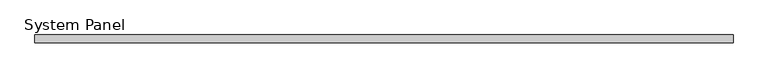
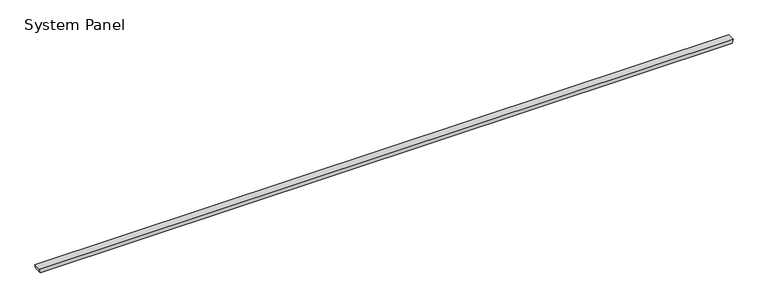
"""IFC4 building model written with IfcOpenShell, lengths in millimetres: plate geometry, System Panel : Equitilt_150mm_Plain_Surfmist."""

from ifc_helpers import new_model, si_unit, frame, origin, place, context, project, spatial, polyline, outline, extrude, source, transform, mapped, element, save


def system_panel_c018d1ff(model_context):
    return source(origin(), model_context, "Body", "SweptSolid", [
        extrude(outline(polyline([(0.0, -6782.6149856), (0.0, 6782.6149856), (79.9704237, 6800.0), (79.9704237, -6800.0), (0.0, -6782.6149856)])), frame((0.0, -150.0, 0.0), z_axis=(0.0, 1.0, 0.0), x_axis=(0.0, 0.0, 1.0)), (0.0, 0.0, 1.0), 150.0),
    ])


if __name__ == "__main__":
    model = new_model("IFC4")
    model_context = context("Model", 3, world=origin())
    ifc_project = project(units=[si_unit("LENGTHUNIT", "METRE", prefix="MILLI")], contexts=[model_context])
    site = spatial("IfcSite", under=ifc_project)
    building = spatial("IfcBuilding", under=site)
    placement = place(None, origin())
    system_panel_shape = system_panel_c018d1ff(model_context)
    element("IfcPlate", 1, ObjectType="System Panel : Equitilt_150mm_Plain_Surfmist", at=placement, inside=building, context=model_context, shape_type="MappedRepresentation", body=[
        mapped(system_panel_shape, transform((0.0, 0.0, 0.0), x_axis=(1.0, 0.0, 0.0), y_axis=(0.0, 1.0, 0.0), z_axis=(0.0, 0.0, 1.0))),
    ])
    save(model, "model.ifc")
